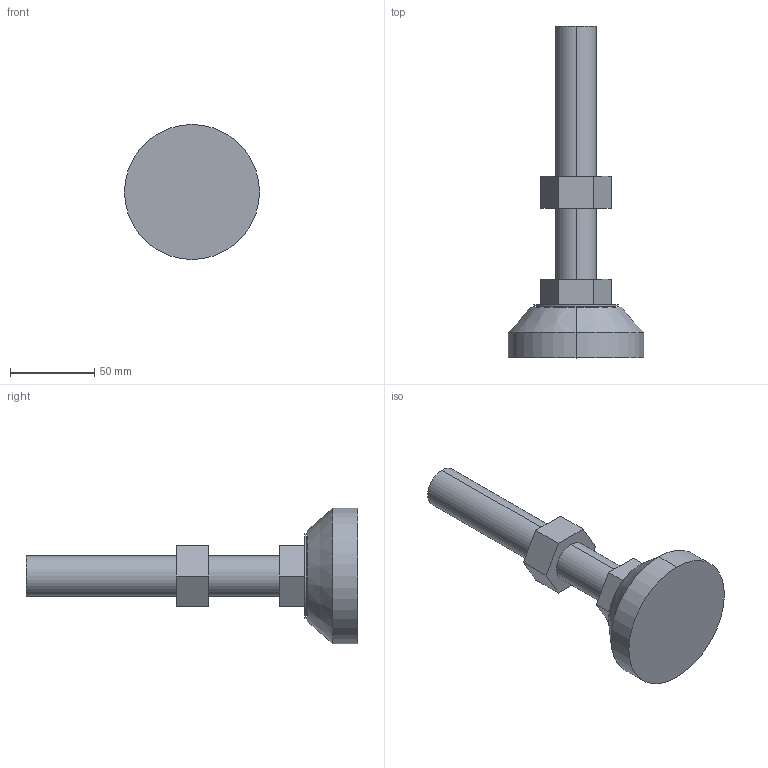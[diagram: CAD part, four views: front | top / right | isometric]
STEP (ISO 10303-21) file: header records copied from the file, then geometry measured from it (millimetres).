
FILE_DESCRIPTION (( 'STEP AP203' ), '1' );
FILE_NAME ('KC-1275-B-12.STEP', '2009-09-04T05:35:06', ( ' ' ), ( ' ' ), 'SwSTEP 2.0', 'SolidWorks 2007', '' );
FILE_SCHEMA (( 'CONFIG_CONTROL_DESIGN' ));
Length unit declared in the file: millimetre
Products named in the file (3): KC-1275-B-11乣13僫僢僩__KC-1275-B-12; KC-1275-B-11乣13儃儖僩__KC-1275-B-12; KC-1275-B-12
Assembly tree (2 placements, depth 2):
  KC-1275-B-12
    KC-1275-B-11乣13儃儖僩__KC-1275-B-12
    KC-1275-B-11乣13僫僢僩__KC-1275-B-12
Bounding box: 80 x 196.5 x 80 mm (x, y, z)
Volume: 229026.4 mm3; surface area: 34966.2 mm2
Topology: 2 solids, 2 shells, 32 faces, 70 edges, 46 vertices
Faces by surface type: plane 20, cylinder 10, cone 2
Entity records: 1189 total; most frequent: DIRECTION 166, CARTESIAN_POINT 153, ORIENTED_EDGE 140, EDGE_CURVE 70, AXIS2_PLACEMENT_3D 59, VECTOR 48, LINE 48, VERTEX_POINT 46
